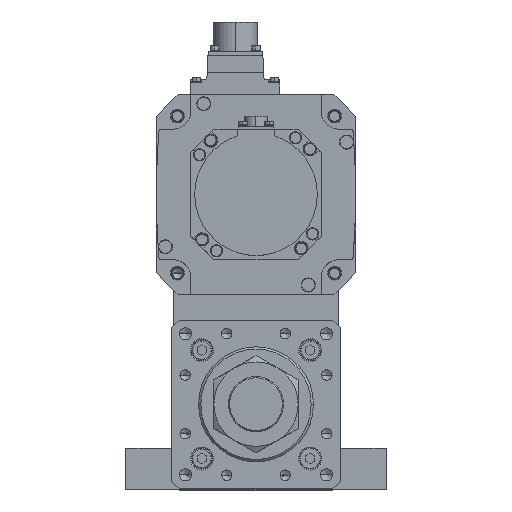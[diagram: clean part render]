
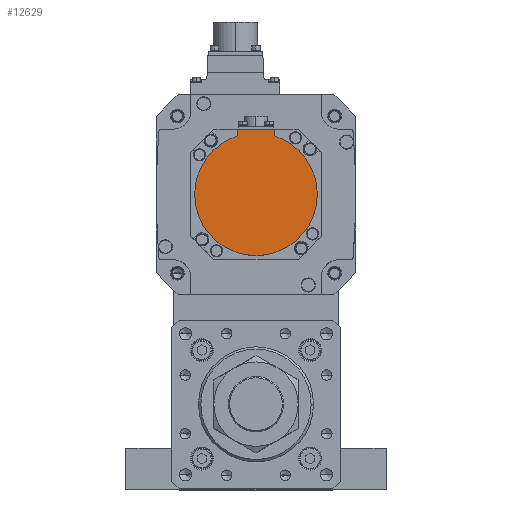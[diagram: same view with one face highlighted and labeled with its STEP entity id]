
A CAD part, top view. The second image highlights one B-rep face of the part: STEP entity #12629.
In plain terms, the highlighted planar face has unit normal (0, 0, 1) as drawn and (0, 0, -1) by its records, which use the part's own axes.
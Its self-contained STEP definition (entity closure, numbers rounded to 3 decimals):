
#361 = CARTESIAN_POINT ( 'NONE',  ( 12., -38.158, -132.5 ) ) ;
#1338 = FACE_OUTER_BOUND ( 'NONE', #13759, .T. ) ;
#2361 = CIRCLE ( 'NONE', #29101, 40. ) ;
#4479 = ORIENTED_EDGE ( 'NONE', *, *, #12562, .T. ) ;
#4662 = CARTESIAN_POINT ( 'NONE',  ( 0., 0., -132.5 ) ) ;
#5515 = EDGE_CURVE ( 'NONE', #31949, #28537, #17664, .T. ) ;
#5541 = CARTESIAN_POINT ( 'NONE',  ( -12., -40.329, -132.5 ) ) ;
#6347 = LINE ( 'NONE', #14641, #7604 ) ;
#7604 = VECTOR ( 'NONE', #19944, 1000. ) ;
#8011 = ORIENTED_EDGE ( 'NONE', *, *, #12506, .F. ) ;
#8024 = DIRECTION ( 'NONE',  ( -1., 0., 0. ) ) ;
#8289 = EDGE_CURVE ( 'NONE', #16802, #21238, #6347, .T. ) ;
#8816 = CARTESIAN_POINT ( 'NONE',  ( -40., 0., -132.5 ) ) ;
#8836 = CARTESIAN_POINT ( 'NONE',  ( -12., -42.5, -132.5 ) ) ;
#10677 = DIRECTION ( 'NONE',  ( 1., 0., 0. ) ) ;
#11160 = CIRCLE ( 'NONE', #32492, 40. ) ;
#12325 = ORIENTED_EDGE ( 'NONE', *, *, #13828, .F. ) ;
#12506 = EDGE_CURVE ( 'NONE', #22178, #13456, #11160, .T. ) ;
#12562 = EDGE_CURVE ( 'NONE', #16802, #31949, #13299, .T. ) ;
#12629 = ADVANCED_FACE ( 'NONE', ( #1338 ), #31642, .F. ) ;
#12770 = DIRECTION ( 'NONE',  ( 0., 0., 1. ) ) ;
#13299 = LINE ( 'NONE', #24625, #26090 ) ;
#13456 = VERTEX_POINT ( 'NONE', #8816 ) ;
#13759 = EDGE_LOOP ( 'NONE', ( #28429, #12325, #8011, #24481, #16344, #4479 ) ) ;
#13828 = EDGE_CURVE ( 'NONE', #13456, #28537, #20087, .T. ) ;
#14641 = CARTESIAN_POINT ( 'NONE',  ( 12., -1.249, -132.5 ) ) ;
#15287 = CARTESIAN_POINT ( 'NONE',  ( 0., -1.249, -132.5 ) ) ;
#16344 = ORIENTED_EDGE ( 'NONE', *, *, #8289, .F. ) ;
#16802 = VERTEX_POINT ( 'NONE', #26457 ) ;
#17664 = LINE ( 'NONE', #5541, #19392 ) ;
#18034 = DIRECTION ( 'NONE',  ( 1., 0., 0. ) ) ;
#18515 = DIRECTION ( 'NONE',  ( 0., 0., 1. ) ) ;
#18932 = DIRECTION ( 'NONE',  ( 1., 0., 0. ) ) ;
#19392 = VECTOR ( 'NONE', #19548, 1000. ) ;
#19548 = DIRECTION ( 'NONE',  ( 0., 1., 0. ) ) ;
#19753 = CARTESIAN_POINT ( 'NONE',  ( 40., 0., -132.5 ) ) ;
#19944 = DIRECTION ( 'NONE',  ( 0., 1., 0. ) ) ;
#20087 = CIRCLE ( 'NONE', #35093, 40. ) ;
#21238 = VERTEX_POINT ( 'NONE', #361 ) ;
#22178 = VERTEX_POINT ( 'NONE', #19753 ) ;
#23955 = EDGE_CURVE ( 'NONE', #21238, #22178, #2361, .T. ) ;
#24307 = DIRECTION ( 'NONE',  ( 0., 0., 1. ) ) ;
#24481 = ORIENTED_EDGE ( 'NONE', *, *, #23955, .F. ) ;
#24625 = CARTESIAN_POINT ( 'NONE',  ( 0., -42.5, -132.5 ) ) ;
#26090 = VECTOR ( 'NONE', #8024, 1000. ) ;
#26127 = DIRECTION ( 'NONE',  ( 1., 0., 0. ) ) ;
#26457 = CARTESIAN_POINT ( 'NONE',  ( 12., -42.5, -132.5 ) ) ;
#28429 = ORIENTED_EDGE ( 'NONE', *, *, #5515, .T. ) ;
#28537 = VERTEX_POINT ( 'NONE', #35390 ) ;
#29101 = AXIS2_PLACEMENT_3D ( 'NONE', #4662, #12770, #26127 ) ;
#29510 = CARTESIAN_POINT ( 'NONE',  ( 0., 0., -132.5 ) ) ;
#31642 = PLANE ( 'NONE',  #34311 ) ;
#31949 = VERTEX_POINT ( 'NONE', #8836 ) ;
#32443 = CARTESIAN_POINT ( 'NONE',  ( 0., 0., -132.5 ) ) ;
#32492 = AXIS2_PLACEMENT_3D ( 'NONE', #29510, #32530, #18932 ) ;
#32530 = DIRECTION ( 'NONE',  ( 0., 0., 1. ) ) ;
#34311 = AXIS2_PLACEMENT_3D ( 'NONE', #15287, #18515, #18034 ) ;
#35093 = AXIS2_PLACEMENT_3D ( 'NONE', #32443, #24307, #10677 ) ;
#35390 = CARTESIAN_POINT ( 'NONE',  ( -12., -38.158, -132.5 ) ) ;
